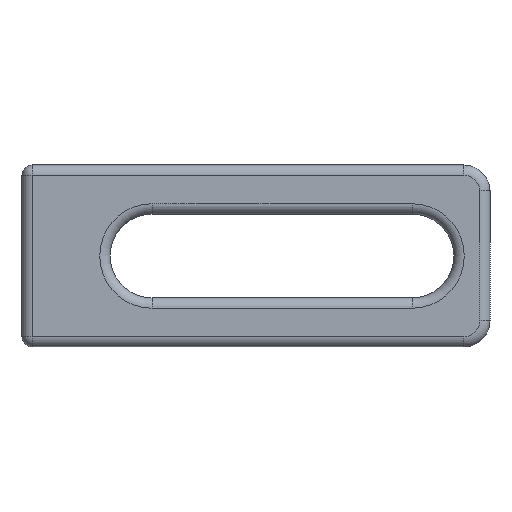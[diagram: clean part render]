
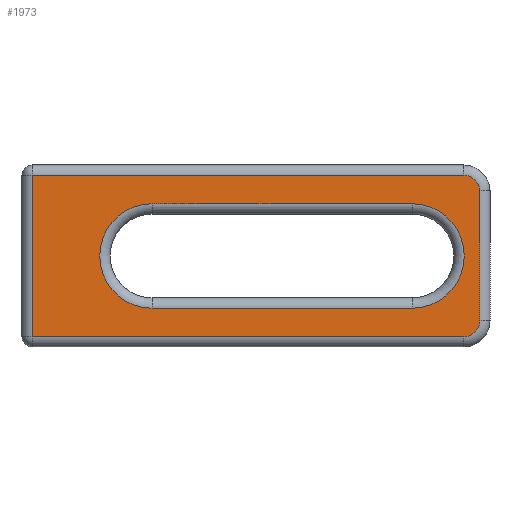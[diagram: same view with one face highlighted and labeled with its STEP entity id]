
A CAD part, front view. The second image highlights one B-rep face of the part: STEP entity #1973.
In plain terms, the highlighted planar face has unit normal (0, -1, 0).
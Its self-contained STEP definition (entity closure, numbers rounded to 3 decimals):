
#48 = DIRECTION ( 'NONE',  ( 0., 1., 0. ) ) ;
#76 = DIRECTION ( 'NONE',  ( 0., 0., 1. ) ) ;
#85 = CARTESIAN_POINT ( 'NONE',  ( 88., 0., -12.5 ) ) ;
#159 = ORIENTED_EDGE ( 'NONE', *, *, #1105, .T. ) ;
#178 = AXIS2_PLACEMENT_3D ( 'NONE', #2131, #923, #2326 ) ;
#199 = CIRCLE ( 'NONE', #178, 3. ) ;
#236 = LINE ( 'NONE', #1077, #1204 ) ;
#241 = ORIENTED_EDGE ( 'NONE', *, *, #1170, .T. ) ;
#266 = VERTEX_POINT ( 'NONE', #1662 ) ;
#317 = DIRECTION ( 'NONE',  ( 0., 1., 0. ) ) ;
#378 = AXIS2_PLACEMENT_3D ( 'NONE', #633, #48, #1412 ) ;
#393 = CIRCLE ( 'NONE', #2035, 3. ) ;
#398 = ORIENTED_EDGE ( 'NONE', *, *, #1721, .T. ) ;
#403 = EDGE_CURVE ( 'NONE', #2088, #2443, #199, .T. ) ;
#482 = ORIENTED_EDGE ( 'NONE', *, *, #660, .T. ) ;
#485 = VERTEX_POINT ( 'NONE', #2249 ) ;
#553 = VECTOR ( 'NONE', #1424, 1000. ) ;
#585 = EDGE_CURVE ( 'NONE', #266, #2443, #1880, .T. ) ;
#602 = FACE_OUTER_BOUND ( 'NONE', #2029, .T. ) ;
#607 = CIRCLE ( 'NONE', #811, 10.05 ) ;
#622 = CARTESIAN_POINT ( 'NONE',  ( 25., 0., -10.05 ) ) ;
#633 = CARTESIAN_POINT ( 'NONE',  ( 0., 0., 17.5 ) ) ;
#660 = EDGE_CURVE ( 'NONE', #991, #485, #1673, .T. ) ;
#694 = VERTEX_POINT ( 'NONE', #1703 ) ;
#718 = CARTESIAN_POINT ( 'NONE',  ( 75., 0., 10.05 ) ) ;
#766 = CARTESIAN_POINT ( 'NONE',  ( 88., 0., 17.5 ) ) ;
#788 = LINE ( 'NONE', #2274, #1856 ) ;
#811 = AXIS2_PLACEMENT_3D ( 'NONE', #2343, #1131, #2546 ) ;
#870 = CARTESIAN_POINT ( 'NONE',  ( 0., 0., -15.5 ) ) ;
#923 = DIRECTION ( 'NONE',  ( 0., 1., 0. ) ) ;
#991 = VERTEX_POINT ( 'NONE', #622 ) ;
#1034 = ORIENTED_EDGE ( 'NONE', *, *, #1927, .F. ) ;
#1060 = LINE ( 'NONE', #1220, #553 ) ;
#1077 = CARTESIAN_POINT ( 'NONE',  ( 0., 0., -10.05 ) ) ;
#1105 = EDGE_CURVE ( 'NONE', #2337, #266, #1395, .T. ) ;
#1130 = ORIENTED_EDGE ( 'NONE', *, *, #403, .F. ) ;
#1131 = DIRECTION ( 'NONE',  ( 0., 1., 0. ) ) ;
#1170 = EDGE_CURVE ( 'NONE', #2142, #991, #236, .T. ) ;
#1204 = VECTOR ( 'NONE', #2493, 1000. ) ;
#1220 = CARTESIAN_POINT ( 'NONE',  ( 0., 0., 10.05 ) ) ;
#1242 = DIRECTION ( 'NONE',  ( 0., 0., -1. ) ) ;
#1246 = DIRECTION ( 'NONE',  ( 0., 1., 0. ) ) ;
#1251 = CARTESIAN_POINT ( 'NONE',  ( 2., 0., 17.5 ) ) ;
#1285 = ORIENTED_EDGE ( 'NONE', *, *, #2006, .T. ) ;
#1329 = VECTOR ( 'NONE', #1883, 1000. ) ;
#1343 = CARTESIAN_POINT ( 'NONE',  ( 85., 0., -15.5 ) ) ;
#1395 = LINE ( 'NONE', #1251, #1896 ) ;
#1412 = DIRECTION ( 'NONE',  ( 0., 0., 1. ) ) ;
#1424 = DIRECTION ( 'NONE',  ( 1., 0., 0. ) ) ;
#1484 = CARTESIAN_POINT ( 'NONE',  ( 88., 0., 12.5 ) ) ;
#1493 = CARTESIAN_POINT ( 'NONE',  ( 25., 0., 0. ) ) ;
#1628 = EDGE_CURVE ( 'NONE', #694, #2337, #788, .T. ) ;
#1647 = FACE_BOUND ( 'NONE', #2116, .T. ) ;
#1662 = CARTESIAN_POINT ( 'NONE',  ( 2., 0., -15.5 ) ) ;
#1673 = CIRCLE ( 'NONE', #2166, 10.05 ) ;
#1694 = DIRECTION ( 'NONE',  ( 0., 0., 1. ) ) ;
#1703 = CARTESIAN_POINT ( 'NONE',  ( 85., 0., 15.5 ) ) ;
#1721 = EDGE_CURVE ( 'NONE', #2279, #2142, #607, .T. ) ;
#1789 = ORIENTED_EDGE ( 'NONE', *, *, #1628, .T. ) ;
#1856 = VECTOR ( 'NONE', #1867, 1000. ) ;
#1867 = DIRECTION ( 'NONE',  ( -1., 0., 0. ) ) ;
#1880 = LINE ( 'NONE', #870, #1329 ) ;
#1883 = DIRECTION ( 'NONE',  ( 1., 0., 0. ) ) ;
#1896 = VECTOR ( 'NONE', #1242, 1000. ) ;
#1901 = ORIENTED_EDGE ( 'NONE', *, *, #2456, .T. ) ;
#1927 = EDGE_CURVE ( 'NONE', #694, #2201, #393, .T. ) ;
#1973 = ADVANCED_FACE ( 'NONE', ( #1647, #602 ), #2433, .F. ) ;
#1999 = LINE ( 'NONE', #766, #2530 ) ;
#2006 = EDGE_CURVE ( 'NONE', #485, #2279, #1060, .T. ) ;
#2029 = EDGE_LOOP ( 'NONE', ( #1130, #1901, #1034, #1789, #159, #2177 ) ) ;
#2035 = AXIS2_PLACEMENT_3D ( 'NONE', #2464, #1246, #76 ) ;
#2088 = VERTEX_POINT ( 'NONE', #85 ) ;
#2116 = EDGE_LOOP ( 'NONE', ( #1285, #398, #241, #482 ) ) ;
#2131 = CARTESIAN_POINT ( 'NONE',  ( 85., 0., -12.5 ) ) ;
#2142 = VERTEX_POINT ( 'NONE', #2285 ) ;
#2166 = AXIS2_PLACEMENT_3D ( 'NONE', #1493, #317, #1694 ) ;
#2176 = DIRECTION ( 'NONE',  ( 0., 0., 1. ) ) ;
#2177 = ORIENTED_EDGE ( 'NONE', *, *, #585, .T. ) ;
#2201 = VERTEX_POINT ( 'NONE', #1484 ) ;
#2249 = CARTESIAN_POINT ( 'NONE',  ( 25., 0., 10.05 ) ) ;
#2274 = CARTESIAN_POINT ( 'NONE',  ( 0., 0., 15.5 ) ) ;
#2279 = VERTEX_POINT ( 'NONE', #718 ) ;
#2285 = CARTESIAN_POINT ( 'NONE',  ( 75., 0., -10.05 ) ) ;
#2326 = DIRECTION ( 'NONE',  ( 0., 0., 1. ) ) ;
#2337 = VERTEX_POINT ( 'NONE', #2540 ) ;
#2343 = CARTESIAN_POINT ( 'NONE',  ( 75., 0., 0. ) ) ;
#2433 = PLANE ( 'NONE',  #378 ) ;
#2443 = VERTEX_POINT ( 'NONE', #1343 ) ;
#2456 = EDGE_CURVE ( 'NONE', #2088, #2201, #1999, .T. ) ;
#2464 = CARTESIAN_POINT ( 'NONE',  ( 85., 0., 12.5 ) ) ;
#2493 = DIRECTION ( 'NONE',  ( -1., 0., 0. ) ) ;
#2530 = VECTOR ( 'NONE', #2176, 1000. ) ;
#2540 = CARTESIAN_POINT ( 'NONE',  ( 2., 0., 15.5 ) ) ;
#2546 = DIRECTION ( 'NONE',  ( 0., 0., 1. ) ) ;
